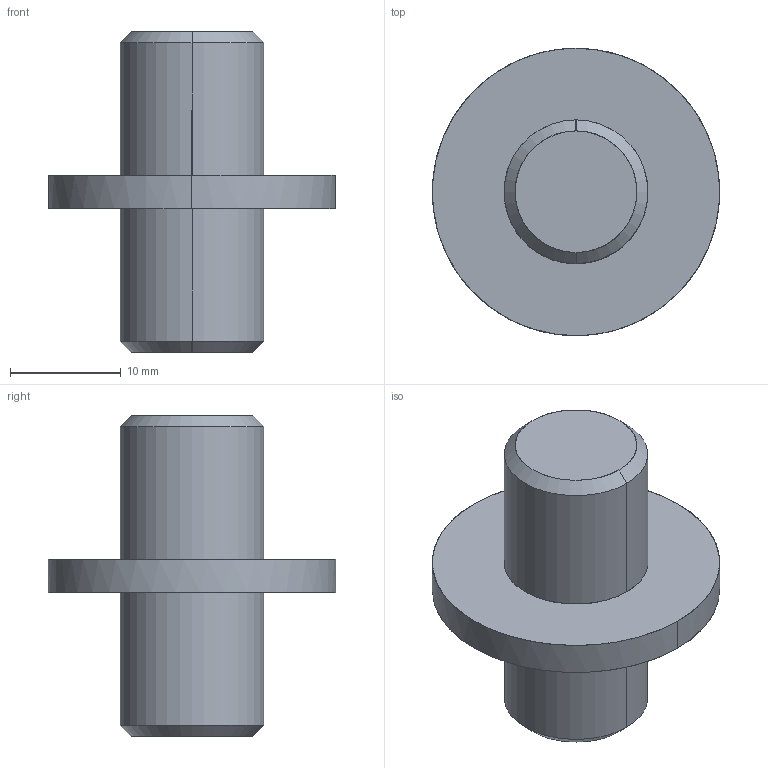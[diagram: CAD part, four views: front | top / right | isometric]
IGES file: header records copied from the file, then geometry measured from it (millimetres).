
Global section: file name: E:\UnigraphicsGraphicData\MISUMI_PRESS-PARTS\IGES\3d_sswc26_00825_r00.igs; native system: NX V5.0; preprocessor: UGS NX IGES V5.0; author: MISUMI; date: 20110105.163201; units: millimetre
Bounding box: 26 x 26 x 29 mm (x, y, z)
Surface area: 2318.3 mm2 (no closed solid volume)
Topology: 0 solids, 0 shells, 14 faces, 104 edges, 104 vertices
Faces by surface type: bspline 14
